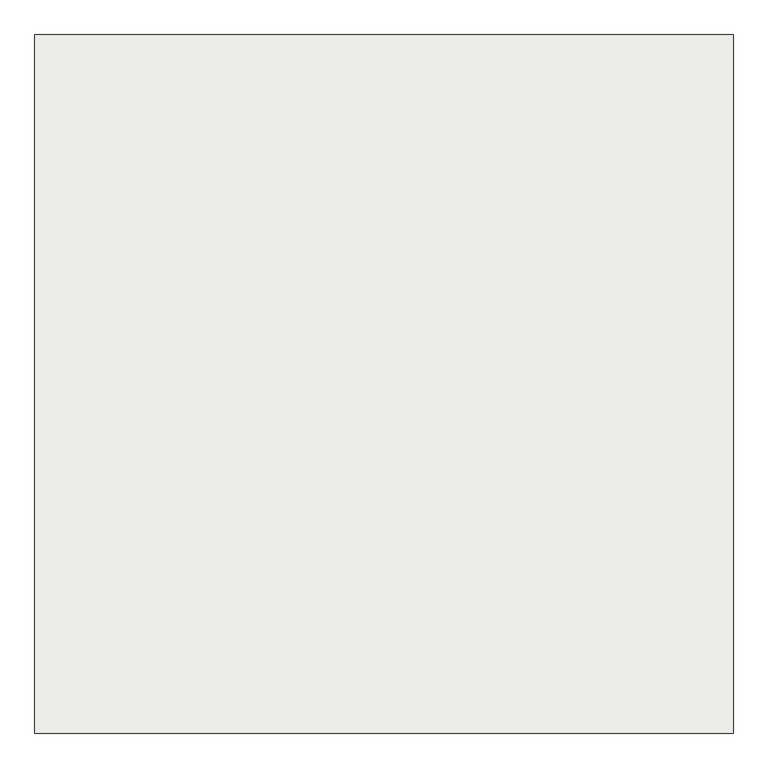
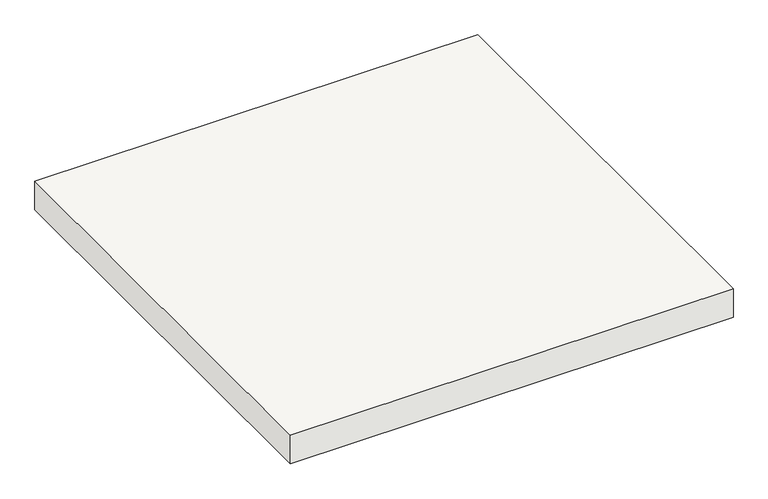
"""IFC4 building model written with IfcOpenShell, lengths in millimetres: roof geometry, Basic Roof:47_RO_isolatie_PIR_bitumen_82_80-2:69885 : Basic Roof:47_RO_isolatie_PIR_bitumen_82_80-2:69885."""

from ifc_helpers import new_model, si_unit, origin, origin_with_axes, place, context, project, spatial, polyline, outline, extrude, source, transform, mapped, element, save


def roof_46c57be1(model_context):
    return source(origin(), model_context, "Body", "SweptSolid", [
        extrude(outline(polyline([(38693.347385, -3415.0), (37193.347385, -3415.0), (37193.347385, -1915.0), (38693.347385, -1915.0), (38693.347385, -3415.0)])), origin_with_axes(), (0.0, 0.0, 1.0), 102.0),
    ])


if __name__ == "__main__":
    model = new_model("IFC4")
    model_context = context("Model", 3, world=origin())
    ifc_project = project(units=[si_unit("LENGTHUNIT", "METRE", prefix="MILLI")], contexts=[model_context])
    site = spatial("IfcSite", under=ifc_project)
    building = spatial("IfcBuilding", under=site)
    placement = place(None, origin())
    roof_shape = roof_46c57be1(model_context)
    element("IfcRoof", 1, ObjectType="Basic Roof:47_RO_isolatie_PIR_bitumen_82_80-2:69885 : Basic Roof:47_RO_isolatie_PIR_bitumen_82_80-2:69885", at=placement, inside=building, context=model_context, shape_type="MappedRepresentation", body=[
        mapped(roof_shape, transform((0.0, 0.0, 0.0), x_axis=(1.0, 0.0, 0.0), y_axis=(0.0, 1.0, 0.0), z_axis=(0.0, 0.0, 1.0))),
    ])
    save(model, "model.ifc")
